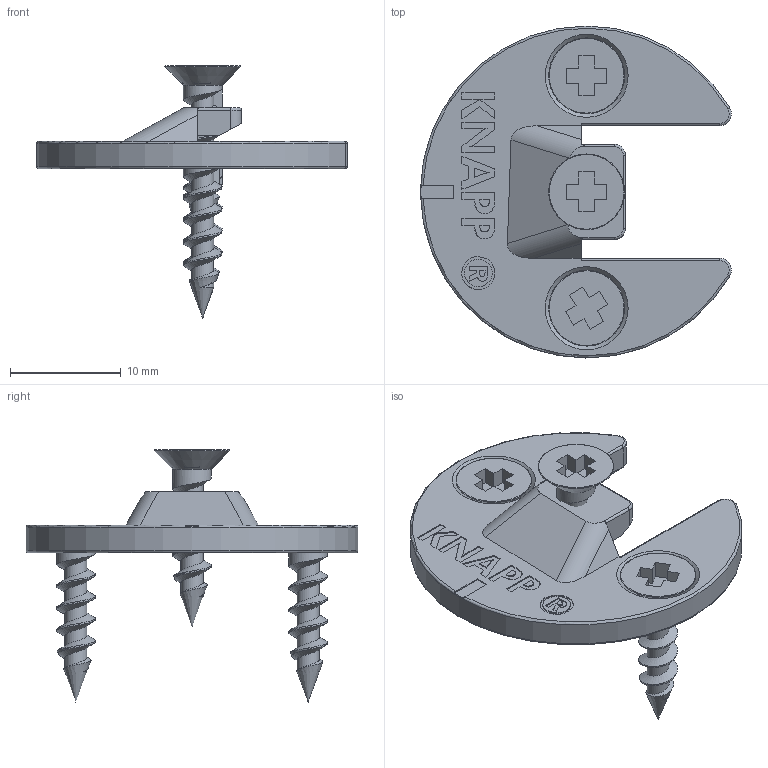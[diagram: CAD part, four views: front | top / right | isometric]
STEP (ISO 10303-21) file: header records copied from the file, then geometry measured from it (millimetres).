
FILE_DESCRIPTION( ( 'Unknown' ), '1' );
FILE_NAME( 'S:/Solid Edge - Zeichnungen/Verbindungssysteme/DUO/Produkte/DUO30ol_Scr3-5x16.stp', 'Unknown', ( 'Unknown' ), ( 'Unknown' ), 'PSStep 13.0', 'Unknown', ' ' );
FILE_SCHEMA( ( 'AUTOMOTIVE_DESIGN { 1 0 10303 214 1 1 1 1 }' ) );
Length unit declared in the file: millimetre
Products named in the file (3): Assem1; Duo 30 OL; SK Schraube 3,5x16
Bounding box: 28.08 x 30 x 22.79 mm (x, y, z)
Volume: 2805.2 mm3; surface area: 3712 mm2
Topology: 5 solids, 5 shells, 411 faces, 1094 edges, 717 vertices
Faces by surface type: plane 231, extrusion 88, cylinder 51, torus 19, cone 13, bspline 9
Full cylindrical faces by diameter (mm): 3.5 x12, 4 x4
Entity records: 12656 total; most frequent: CARTESIAN_POINT 8165, ORIENTED_EDGE 968, DIRECTION 775, EDGE_CURVE 484, VECTOR 371, LINE 327, VERTEX_POINT 322, EDGE_LOOP 211
